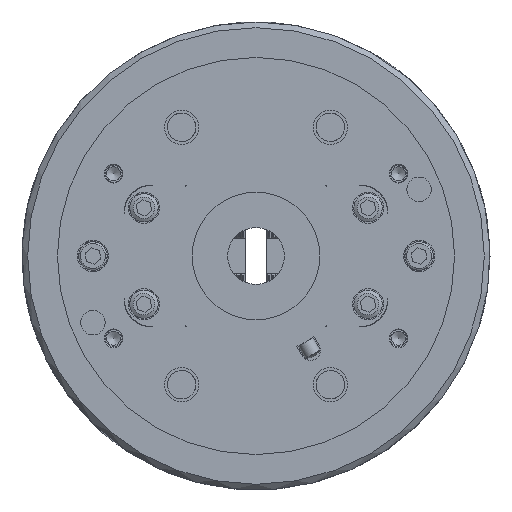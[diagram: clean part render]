
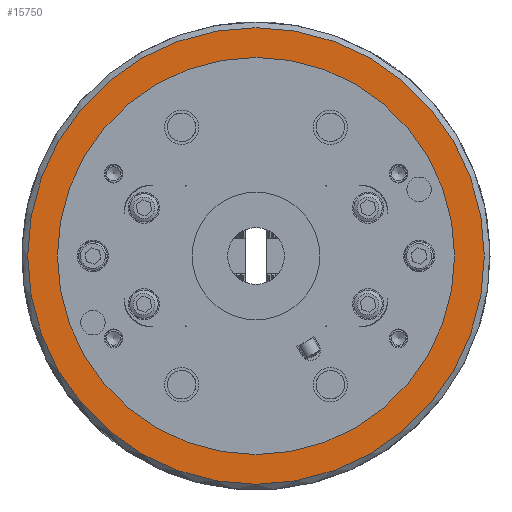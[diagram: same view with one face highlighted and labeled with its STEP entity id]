
A CAD part, left-side view. The second image highlights one B-rep face of the part: STEP entity #15750.
In plain terms, the highlighted planar face has unit normal (-1, 0, 0).
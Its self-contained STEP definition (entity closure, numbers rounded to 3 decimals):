
#300 = CIRCLE ( 'NONE', #1059, 70. ) ;
#1059 = AXIS2_PLACEMENT_3D ( 'NONE', #24161, #1268, #24018 ) ;
#1268 = DIRECTION ( 'NONE',  ( 1., 0., 0. ) ) ;
#2579 = CARTESIAN_POINT ( 'NONE',  ( -87., 0., 0. ) ) ;
#2931 = CARTESIAN_POINT ( 'NONE',  ( -87., 0., 80.5 ) ) ;
#3586 = FACE_BOUND ( 'NONE', #38332, .T. ) ;
#8019 = VERTEX_POINT ( 'NONE', #2931 ) ;
#9038 = PLANE ( 'NONE',  #24997 ) ;
#15584 = VERTEX_POINT ( 'NONE', #19285 ) ;
#15750 = ADVANCED_FACE ( 'NONE', ( #3586, #16340 ), #9038, .T. ) ;
#16201 = AXIS2_PLACEMENT_3D ( 'NONE', #2579, #31999, #31738 ) ;
#16340 = FACE_OUTER_BOUND ( 'NONE', #21375, .T. ) ;
#19285 = CARTESIAN_POINT ( 'NONE',  ( -87., 0., -70. ) ) ;
#21375 = EDGE_LOOP ( 'NONE', ( #38591 ) ) ;
#24018 = DIRECTION ( 'NONE',  ( 0., 0., -1. ) ) ;
#24161 = CARTESIAN_POINT ( 'NONE',  ( -87., 0., 0. ) ) ;
#24997 = AXIS2_PLACEMENT_3D ( 'NONE', #28361, #37859, #40983 ) ;
#26644 = EDGE_CURVE ( 'NONE', #8019, #8019, #30597, .T. ) ;
#28361 = CARTESIAN_POINT ( 'NONE',  ( -87., 0., -82.5 ) ) ;
#28781 = EDGE_CURVE ( 'NONE', #15584, #15584, #300, .T. ) ;
#30597 = CIRCLE ( 'NONE', #16201, 80.5 ) ;
#31738 = DIRECTION ( 'NONE',  ( 0., 0., 1. ) ) ;
#31999 = DIRECTION ( 'NONE',  ( -1., 0., 0. ) ) ;
#33574 = ORIENTED_EDGE ( 'NONE', *, *, #28781, .T. ) ;
#37859 = DIRECTION ( 'NONE',  ( -1., 0., 0. ) ) ;
#38332 = EDGE_LOOP ( 'NONE', ( #33574 ) ) ;
#38591 = ORIENTED_EDGE ( 'NONE', *, *, #26644, .T. ) ;
#40983 = DIRECTION ( 'NONE',  ( 0., 0., 1. ) ) ;
